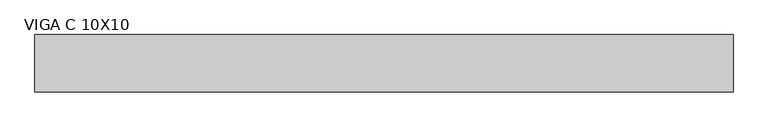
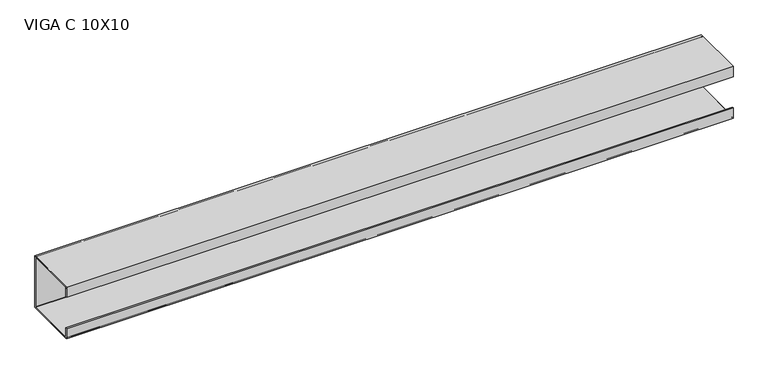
"""IFC4 building model written with IfcOpenShell, lengths in millimetres: beam geometry, VIGA PERFIL C AÇO : VIGA C 10X10."""

import ifcopenshell
import ifcopenshell.guid

model = None  # the IFC model being written
_history = None  # IfcOwnerHistory: only IFC2X3 demands one
_inside = {}  # id of a spatial element -> (the spatial element, [elements in it])
_under = {}  # id of a project, library or spatial element -> (it, [spatial elements below it])
_declared = {}  # id of a project -> (the project, [libraries it declares])
_typed = {}  # id of a type object -> (the type object, [elements of that type])
_made_of = {}  # id of a material, layer set ... -> (it, [elements and type objects made of it])


def new_model(schema):
    """Start an empty IFC model of exactly this schema.

    Asked for "IFC4X3", IfcOpenShell would pick the latest addendum, in which some entities
    have other attributes; the version numbers below select the first issue.
    IFC2X3 requires an IfcOwnerHistory on every rooted entity: one is made here for all.
    """
    global model, _history
    if schema == "IFC4X3":
        model = ifcopenshell.file(schema_version=(4, 3, 0, 0))
    else:
        model = ifcopenshell.file(schema=schema)
    _inside.clear()
    _under.clear()
    _declared.clear()
    _typed.clear()
    _made_of.clear()
    _history = None
    if model.schema == "IFC2X3":
        org = make("IfcOrganization", Name="unknown")
        user = make(
            "IfcPersonAndOrganization",
            ThePerson=make("IfcPerson", FamilyName="unknown"),
            TheOrganization=org,
        )
        app = make(
            "IfcApplication",
            ApplicationDeveloper=org,
            Version="unknown",
            ApplicationFullName="unknown",
            ApplicationIdentifier="unknown",
        )
        _history = make(
            "IfcOwnerHistory",
            OwningUser=user,
            OwningApplication=app,
            ChangeAction="ADDED",
            CreationDate=0,
        )
    return model


def make(cls, **values):
    """One entity of the class cls with the attributes given. An attribute that is None is left unset."""
    return model.create_entity(
        cls, **{name: value for name, value in values.items() if value is not None}
    )


def rooted(cls, **values):
    """An entity with a GlobalId (a new one), such as an element, a storey or a relation."""
    return make(cls, GlobalId=ifcopenshell.guid.new(), OwnerHistory=_history, **values)


def si_unit(unit_type, name, prefix=None):
    """IfcSIUnit, for example si_unit("LENGTHUNIT", "METRE", prefix="MILLI")."""
    return make("IfcSIUnit", UnitType=unit_type, Prefix=prefix, Name=name)


def assignment(units):
    """IfcUnitAssignment: the units of a project."""
    return None if units is None else make("IfcUnitAssignment", Units=units)


def point(xyz):
    """IfcCartesianPoint."""
    return None if xyz is None else make("IfcCartesianPoint", Coordinates=xyz)


def direction(xyz):
    """IfcDirection."""
    return None if xyz is None else make("IfcDirection", DirectionRatios=xyz)


def frame(location, z_axis=None, x_axis=None):
    """IfcAxis2Placement3D, a coordinate frame: its origin and axes. An axis left out is left unset."""
    return make(
        "IfcAxis2Placement3D",
        Location=point(location),
        Axis=direction(z_axis),
        RefDirection=direction(x_axis),
    )


def frame_2d(location, x_axis=None):
    """IfcAxis2Placement2D, a coordinate frame in the plane: its origin and x axis."""
    return make(
        "IfcAxis2Placement2D", Location=point(location), RefDirection=direction(x_axis)
    )


def origin():
    """The frame at (0, 0, 0) with its axes left unset."""
    return frame((0.0, 0.0, 0.0))


def place(relative_to, where):
    """IfcLocalPlacement: puts the frame where relative to a parent placement (None: the world)."""
    return make(
        "IfcLocalPlacement", PlacementRelTo=relative_to, RelativePlacement=where
    )


def context(
    kind, dimensions, precision=None, world=None, true_north=None, identifier=None
):
    """IfcGeometricRepresentationContext, for example the 3D "Model" context."""
    return make(
        "IfcGeometricRepresentationContext",
        ContextIdentifier=identifier,
        ContextType=kind,
        CoordinateSpaceDimension=dimensions,
        Precision=precision,
        WorldCoordinateSystem=world,
        TrueNorth=true_north,
    )


def project(units=None, contexts=None):
    """IfcProject with its units and contexts."""
    return rooted(
        "IfcProject",
        Name="project",
        RepresentationContexts=contexts,
        UnitsInContext=assignment(units),
    )


def spatial(cls, under=None, at=None, **own):
    """A site, building, storey or space (cls), placed at a placement, below another one or the project."""
    s = rooted(cls, ObjectPlacement=at, **own)
    if under is not None:
        _under.setdefault(under.id(), (under, []))[1].append(s)
    return s


def polyline(points):
    """IfcPolyline through the points."""
    return make("IfcPolyline", Points=[point(p) for p in points])


def circle_curve(where, radius):
    """IfcCircle in the frame where."""
    return make("IfcCircle", Position=where, Radius=radius)


def trimmed(basis, trim1, trim2, sense, master):
    """IfcTrimmedCurve: the piece of a basis curve between two trims."""
    return make(
        "IfcTrimmedCurve",
        BasisCurve=basis,
        Trim1=trim1,
        Trim2=trim2,
        SenseAgreement=sense,
        MasterRepresentation=master,
    )


def segment(curve, same_sense, transition):
    """IfcCompositeCurveSegment."""
    return make(
        "IfcCompositeCurveSegment",
        Transition=transition,
        SameSense=same_sense,
        ParentCurve=curve,
    )


def composite_curve(segments, self_intersect=None):
    """IfcCompositeCurve: segments joined end to end."""
    return make("IfcCompositeCurve", Segments=segments, SelfIntersect=self_intersect)


def outline(outer, holes=None, kind="AREA"):
    """IfcArbitraryClosedProfileDef: a profile drawn as a closed curve; with holes, ...WithVoids."""
    if holes is None:
        return make("IfcArbitraryClosedProfileDef", ProfileType=kind, OuterCurve=outer)
    return make(
        "IfcArbitraryProfileDefWithVoids",
        ProfileType=kind,
        OuterCurve=outer,
        InnerCurves=holes,
    )


def extrude(swept, where, along, depth):
    """IfcExtrudedAreaSolid: the profile swept, set in the frame where, extruded along a direction by depth."""
    return make(
        "IfcExtrudedAreaSolid",
        SweptArea=swept,
        Position=where,
        ExtrudedDirection=direction(along),
        Depth=depth,
    )


def shape(context_of_items, identifier, shape_type, items):
    """IfcShapeRepresentation: the items that make up one representation, for example the "Body"."""
    return make(
        "IfcShapeRepresentation",
        ContextOfItems=context_of_items,
        RepresentationIdentifier=identifier,
        RepresentationType=shape_type,
        Items=items,
    )


def source(mapping_origin, context_of_items, identifier, shape_type, items):
    """IfcRepresentationMap: a shape defined once, which mapped items show again and again."""
    return make(
        "IfcRepresentationMap",
        MappingOrigin=mapping_origin,
        MappedRepresentation=shape(context_of_items, identifier, shape_type, items),
    )


def transform(
    local_origin,
    x_axis=None,
    y_axis=None,
    z_axis=None,
    scale=None,
    scale2=None,
    scale3=None,
    uniform=True,
):
    """IfcCartesianTransformationOperator3D, or its non-uniform kind. x_axis, y_axis, z_axis: its Axis1, 2, 3."""
    if uniform:
        return make(
            "IfcCartesianTransformationOperator3D",
            Axis1=direction(x_axis),
            Axis2=direction(y_axis),
            LocalOrigin=point(local_origin),
            Scale=scale,
            Axis3=direction(z_axis),
        )
    return make(
        "IfcCartesianTransformationOperator3DnonUniform",
        Axis1=direction(x_axis),
        Axis2=direction(y_axis),
        LocalOrigin=point(local_origin),
        Scale=scale,
        Axis3=direction(z_axis),
        Scale2=scale2,
        Scale3=scale3,
    )


def mapped(mapping_source, mapping_target):
    """IfcMappedItem: shows the shape of a source again, moved by a transform."""
    return make(
        "IfcMappedItem", MappingSource=mapping_source, MappingTarget=mapping_target
    )


def made_of(thing, what):
    """Note that an element or type object is made of a material, layer set ...; save() writes the relation."""
    if what is not None:
        _made_of.setdefault(what.id(), (what, []))[1].append(thing)
    return thing


def element(
    cls,
    number,
    at=None,
    inside=None,
    cuts=None,
    type_object=None,
    material=None,
    context=None,
    identifier="Body",
    shape_type=None,
    held_by="IfcProductDefinitionShape",
    body=None,
    shapes=None,
    **own,
):
    """One element of the class cls, such as IfcWall. Its Tag is "e" and its number.

    at: its placement. inside: the storey or other place that contains it. cuts: it is an
    opening in that element (IfcRelVoidsElement). A single representation is given by context,
    identifier, shape_type and body (its items); several are given by shapes. held_by: the class
    of the entity that holds the representations. save() writes the other relations.
    """
    e = rooted(cls, Tag="e%d" % number, ObjectPlacement=at, **own)
    if body is not None:
        shapes = [shape(context, identifier, shape_type, body)]
    if shapes is not None:
        e.Representation = make(held_by, Representations=shapes)
    if inside is not None:
        _inside.setdefault(inside.id(), (inside, []))[1].append(e)
    if cuts is not None:
        rooted(
            "IfcRelVoidsElement", RelatingBuildingElement=cuts, RelatedOpeningElement=e
        )
    if type_object is not None:
        _typed.setdefault(type_object.id(), (type_object, []))[1].append(e)
    return made_of(e, material)


def aggregate(whole, parts):
    """IfcRelAggregates: a whole, such as a stair, and the parts it consists of."""
    return rooted("IfcRelAggregates", RelatingObject=whole, RelatedObjects=parts)


def save(model, path):
    """Write the relations noted so far, then the file.

    IfcRelAggregates (storeys below a building ...), IfcRelContainedInSpatialStructure (elements
    in a storey), IfcRelDefinesByType, IfcRelAssociatesMaterial and IfcRelDeclares: one each for
    every whole, place, type object, material and project.
    """
    for whole, parts in _under.values():
        aggregate(whole, parts)
    for where, things in _inside.values():
        rooted(
            "IfcRelContainedInSpatialStructure",
            RelatedElements=things,
            RelatingStructure=where,
        )
    for kind, things in _typed.values():
        rooted("IfcRelDefinesByType", RelatedObjects=things, RelatingType=kind)
    for what, things in _made_of.values():
        rooted("IfcRelAssociatesMaterial", RelatedObjects=things, RelatingMaterial=what)
    for by, libraries in _declared.values():
        rooted("IfcRelDeclares", RelatingContext=by, RelatedDefinitions=libraries)
    model.write(path)


def viga_c_10x10_2e194038(model_context):
    return source(origin(), model_context, "Body", "SweptSolid", [
        extrude(outline(polyline([(9.2, -50.0), (-90.8, -50.0), (-90.8, -30.0), (-88.9, -30.0), (-88.9, -48.1), (7.3, -48.1), (7.3, 48.1), (-88.9, 48.1), (-88.9, 30.0), (-90.8, 30.0), (-90.8, 50.0), (9.2, 50.0), (9.2, -50.0)])), frame((-610.0, 0.0, 0.0), z_axis=(1.0, 0.0, 0.0), x_axis=(0.0, 1.0, 0.0)), (0.0, 0.0, 1.0), 1217.0),
        extrude(outline(composite_curve([segment(trimmed(circle_curve(frame_2d((5.4, -46.2)), 3.8), [point((9.2, -46.2))], [point((5.4, -50.0))], False, "CARTESIAN"), True, "CONTINUOUS"), segment(polyline([(5.4, -50.0), (-87.0, -50.0)]), True, "CONTINUOUS"), segment(trimmed(circle_curve(frame_2d((-87.0, -46.2)), 3.8), [point((-87.0, -50.0))], [point((-90.8, -46.2))], False, "CARTESIAN"), True, "CONTINUOUS"), segment(polyline([(-90.8, -46.2), (-90.8, -30.0), (-88.9, -30.0), (-88.9, -46.2)]), True, "CONTINUOUS"), segment(trimmed(circle_curve(frame_2d((-87.0, -46.2)), 1.9), [point((-88.9, -46.2))], [point((-87.0, -48.1))], True, "CARTESIAN"), True, "CONTINUOUS"), segment(polyline([(-87.0, -48.1), (5.4, -48.1)]), True, "CONTINUOUS"), segment(trimmed(circle_curve(frame_2d((5.4, -46.2)), 1.9), [point((5.4, -48.1))], [point((7.3, -46.2))], True, "CARTESIAN"), True, "CONTINUOUS"), segment(polyline([(7.3, -46.2), (7.3, 46.2)]), True, "CONTINUOUS"), segment(trimmed(circle_curve(frame_2d((5.4, 46.2)), 1.9), [point((7.3, 46.2))], [point((5.4, 48.1))], True, "CARTESIAN"), True, "CONTINUOUS"), segment(polyline([(5.4, 48.1), (-87.0, 48.1)]), True, "CONTINUOUS"), segment(trimmed(circle_curve(frame_2d((-87.0, 46.2)), 1.9), [point((-87.0, 48.1))], [point((-88.9, 46.2))], True, "CARTESIAN"), True, "CONTINUOUS"), segment(polyline([(-88.9, 46.2), (-88.9, 30.0), (-90.8, 30.0), (-90.8, 46.2)]), True, "CONTINUOUS"), segment(trimmed(circle_curve(frame_2d((-87.0, 46.2)), 3.8), [point((-90.8, 46.2))], [point((-87.0, 50.0))], False, "CARTESIAN"), True, "CONTINUOUS"), segment(polyline([(-87.0, 50.0), (5.4, 50.0)]), True, "CONTINUOUS"), segment(trimmed(circle_curve(frame_2d((5.4, 46.2)), 3.8), [point((5.4, 50.0))], [point((9.2, 46.2))], False, "CARTESIAN"), True, "CONTINUOUS"), segment(polyline([(9.2, 46.2), (9.2, -46.2)]), True, "CONTINUOUS")], self_intersect=False)), frame((-610.0, 0.0, 0.0), z_axis=(1.0, 0.0, 0.0), x_axis=(0.0, 1.0, 0.0)), (0.0, 0.0, 1.0), 1217.0),
    ])


if __name__ == "__main__":
    model = new_model("IFC4")
    model_context = context("Model", 3, world=origin())
    ifc_project = project(units=[si_unit("LENGTHUNIT", "METRE", prefix="MILLI")], contexts=[model_context])
    site = spatial("IfcSite", under=ifc_project)
    building = spatial("IfcBuilding", under=site)
    placement = place(None, origin())
    viga_c_10x10_shape = viga_c_10x10_2e194038(model_context)
    element("IfcBeam", 1, ObjectType="VIGA PERFIL C AÇO : VIGA C 10X10", at=placement, inside=building, context=model_context, shape_type="MappedRepresentation", body=[
        mapped(viga_c_10x10_shape, transform((0.0, 0.0, 0.0), x_axis=(1.0, 0.0, 0.0), y_axis=(0.0, 1.0, 0.0), z_axis=(0.0, 0.0, 1.0))),
    ])
    save(model, "model.ifc")
